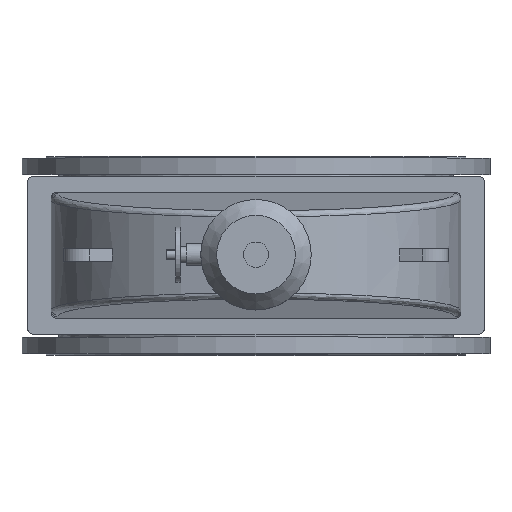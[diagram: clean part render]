
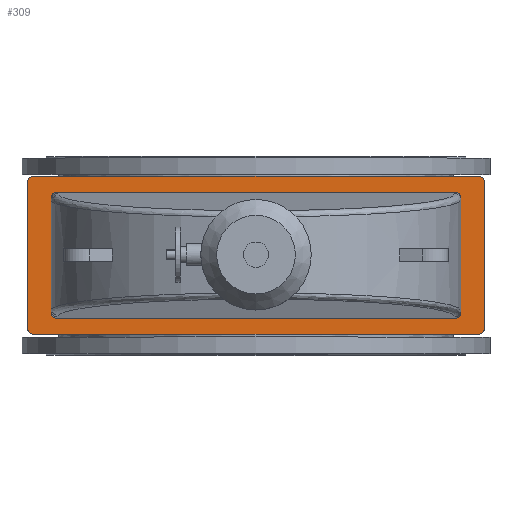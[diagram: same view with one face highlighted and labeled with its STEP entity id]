
A CAD part, top view. The second image highlights one B-rep face of the part: STEP entity #309.
In plain terms, the highlighted planar face has unit normal (0, 0, 1).
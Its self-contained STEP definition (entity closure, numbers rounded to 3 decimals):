
#309=ADVANCED_FACE('',(#4149,#4151),#4153,.T.);
#4149=FACE_BOUND('',#4150,.T.);
#4150=EDGE_LOOP('',(#10154,#10155,#10156,#10157,#10158,#10159,#10160,#10161));
#4151=FACE_BOUND('',#4152,.T.);
#4152=EDGE_LOOP('',(#10162,#10163,#10164,#10165,#10166,#10167,#10168,#10169));
#4153=PLANE('',#4154);
#4154=AXIS2_PLACEMENT_3D('',#4155,#4156,#4157);
#4155=CARTESIAN_POINT('',(0.,0.,1316.));
#4156=DIRECTION('',(0.,-0.,1.));
#4157=DIRECTION('',(0.,1.,0.));
#10154=ORIENTED_EDGE('',*,*,#11758,.F.);
#10155=ORIENTED_EDGE('',*,*,#11759,.T.);
#10156=ORIENTED_EDGE('',*,*,#11760,.F.);
#10157=ORIENTED_EDGE('',*,*,#11761,.T.);
#10158=ORIENTED_EDGE('',*,*,#11762,.F.);
#10159=ORIENTED_EDGE('',*,*,#11763,.T.);
#10160=ORIENTED_EDGE('',*,*,#11764,.F.);
#10161=ORIENTED_EDGE('',*,*,#11765,.T.);
#10162=ORIENTED_EDGE('',*,*,#11756,.F.);
#10163=ORIENTED_EDGE('',*,*,#11755,.F.);
#10164=ORIENTED_EDGE('',*,*,#11757,.F.);
#10165=ORIENTED_EDGE('',*,*,#11730,.F.);
#10166=ORIENTED_EDGE('',*,*,#11766,.F.);
#10167=ORIENTED_EDGE('',*,*,#11767,.F.);
#10168=ORIENTED_EDGE('',*,*,#11768,.F.);
#10169=ORIENTED_EDGE('',*,*,#11723,.F.);
#11723=EDGE_CURVE('',#12571,#12573,#12574,.T.);
#11730=EDGE_CURVE('',#12583,#12581,#12585,.T.);
#11755=EDGE_CURVE('',#12624,#12622,#12626,.T.);
#11756=EDGE_CURVE('',#12622,#12571,#12627,.F.);
#11757=EDGE_CURVE('',#12581,#12624,#12628,.T.);
#11758=EDGE_CURVE('',#12629,#12630,#12631,.F.);
#11759=EDGE_CURVE('',#12629,#12632,#12633,.T.);
#11760=EDGE_CURVE('',#12634,#12632,#12635,.F.);
#11761=EDGE_CURVE('',#12634,#12636,#12637,.T.);
#11762=EDGE_CURVE('',#12638,#12636,#12639,.F.);
#11763=EDGE_CURVE('',#12638,#12640,#12641,.T.);
#11764=EDGE_CURVE('',#12642,#12640,#12643,.F.);
#11765=EDGE_CURVE('',#12642,#12630,#12644,.T.);
#11766=EDGE_CURVE('',#12645,#12583,#12646,.F.);
#11767=EDGE_CURVE('',#12647,#12645,#12648,.T.);
#11768=EDGE_CURVE('',#12573,#12647,#12649,.T.);
#12571=VERTEX_POINT('',#14172);
#12573=VERTEX_POINT('',#14176);
#12574=LINE('',#14177,#14178);
#12581=VERTEX_POINT('',#14197);
#12583=VERTEX_POINT('',#14201);
#12585=LINE('',#14205,#14206);
#12622=VERTEX_POINT('',#14298);
#12624=VERTEX_POINT('',#14302);
#12626=LINE('',#14306,#14307);
#12627=(BOUNDED_CURVE()B_SPLINE_CURVE(3,
(#14309,#14310,#14311,#14312),
.UNSPECIFIED.,.F.,.F.)B_SPLINE_CURVE_WITH_KNOTS((4,4),
(0.,1.),
.UNSPECIFIED.)CURVE()GEOMETRIC_REPRESENTATION_ITEM()RATIONAL_B_SPLINE_CURVE((1.,
0.805,0.805,1.))REPRESENTATION_ITEM(''));
#12628=(BOUNDED_CURVE()B_SPLINE_CURVE(3,
(#14313,#14314,#14315,#14316),
.UNSPECIFIED.,.F.,.F.)B_SPLINE_CURVE_WITH_KNOTS((4,4),
(0.,1.),
.UNSPECIFIED.)CURVE()GEOMETRIC_REPRESENTATION_ITEM()RATIONAL_B_SPLINE_CURVE((1.,
0.805,0.805,1.))REPRESENTATION_ITEM(''));
#12629=VERTEX_POINT('',#14317);
#12630=VERTEX_POINT('',#14318);
#12631=CIRCLE('',#14319,20.);
#12632=VERTEX_POINT('',#14323);
#12633=LINE('',#14324,#14325);
#12634=VERTEX_POINT('',#14327);
#12635=CIRCLE('',#14328,20.);
#12636=VERTEX_POINT('',#14332);
#12637=LINE('',#14333,#14334);
#12638=VERTEX_POINT('',#14336);
#12639=CIRCLE('',#14337,20.);
#12640=VERTEX_POINT('',#14341);
#12641=LINE('',#14342,#14343);
#12642=VERTEX_POINT('',#14345);
#12643=CIRCLE('',#14346,20.);
#12644=LINE('',#14350,#14351);
#12645=VERTEX_POINT('',#14353);
#12646=(BOUNDED_CURVE()B_SPLINE_CURVE(3,
(#14354,#14355,#14356,#14357),
.UNSPECIFIED.,.F.,.F.)B_SPLINE_CURVE_WITH_KNOTS((4,4),
(0.,1.),
.UNSPECIFIED.)CURVE()GEOMETRIC_REPRESENTATION_ITEM()RATIONAL_B_SPLINE_CURVE((1.,
0.805,0.805,1.))REPRESENTATION_ITEM(''));
#12647=VERTEX_POINT('',#14358);
#12648=LINE('',#14359,#14360);
#12649=(BOUNDED_CURVE()B_SPLINE_CURVE(3,
(#14362,#14363,#14364,#14365),
.UNSPECIFIED.,.F.,.F.)B_SPLINE_CURVE_WITH_KNOTS((4,4),
(0.,1.),
.UNSPECIFIED.)CURVE()GEOMETRIC_REPRESENTATION_ITEM()RATIONAL_B_SPLINE_CURVE((1.,
0.805,0.805,1.))REPRESENTATION_ITEM(''));
#14172=CARTESIAN_POINT('',(650.,-179.924,1316.));
#14176=CARTESIAN_POINT('',(650.,179.924,1316.));
#14177=CARTESIAN_POINT('',(650.,-179.924,1316.));
#14178=VECTOR('',#14179,1.);
#14179=DIRECTION('',(0.,1.,0.));
#14197=CARTESIAN_POINT('',(-650.,-179.924,1316.));
#14201=CARTESIAN_POINT('',(-650.,179.924,1316.));
#14205=CARTESIAN_POINT('',(-650.,179.924,1316.));
#14206=VECTOR('',#14207,1.);
#14207=DIRECTION('',(0.,-1.,0.));
#14298=CARTESIAN_POINT('',(630.,-200.,1316.));
#14302=CARTESIAN_POINT('',(-630.,-200.,1316.));
#14306=CARTESIAN_POINT('',(-630.,-200.,1316.));
#14307=VECTOR('',#14308,1.);
#14308=DIRECTION('',(1.,0.,0.));
#14309=CARTESIAN_POINT('',(650.,-179.924,1316.));
#14310=CARTESIAN_POINT('',(650.,-191.684,1316.));
#14311=CARTESIAN_POINT('',(641.716,-200.,1316.));
#14312=CARTESIAN_POINT('',(630.,-200.,1316.));
#14313=CARTESIAN_POINT('',(-650.,-179.924,1316.));
#14314=CARTESIAN_POINT('',(-650.,-191.684,1316.));
#14315=CARTESIAN_POINT('',(-641.716,-200.,1316.));
#14316=CARTESIAN_POINT('',(-630.,-200.,1316.));
#14317=CARTESIAN_POINT('',(-705.,-250.,1316.));
#14318=CARTESIAN_POINT('',(-725.,-230.,1316.));
#14319=AXIS2_PLACEMENT_3D('',#14320,#14321,#14322);
#14320=CARTESIAN_POINT('',(-705.,-230.,1316.));
#14321=DIRECTION('',(0.,-0.,1.));
#14322=DIRECTION('',(-1.,0.,0.));
#14323=CARTESIAN_POINT('',(705.,-250.,1316.));
#14324=CARTESIAN_POINT('',(-705.,-250.,1316.));
#14325=VECTOR('',#14326,1.);
#14326=DIRECTION('',(1.,0.,0.));
#14327=CARTESIAN_POINT('',(725.,-230.,1316.));
#14328=AXIS2_PLACEMENT_3D('',#14329,#14330,#14331);
#14329=CARTESIAN_POINT('',(705.,-230.,1316.));
#14330=DIRECTION('',(0.,-0.,1.));
#14331=DIRECTION('',(0.,-1.,0.));
#14332=CARTESIAN_POINT('',(725.,230.,1316.));
#14333=CARTESIAN_POINT('',(725.,-230.,1316.));
#14334=VECTOR('',#14335,1.);
#14335=DIRECTION('',(0.,1.,0.));
#14336=CARTESIAN_POINT('',(705.,250.,1316.));
#14337=AXIS2_PLACEMENT_3D('',#14338,#14339,#14340);
#14338=CARTESIAN_POINT('',(705.,230.,1316.));
#14339=DIRECTION('',(0.,-0.,1.));
#14340=DIRECTION('',(1.,0.,0.));
#14341=CARTESIAN_POINT('',(-705.,250.,1316.));
#14342=CARTESIAN_POINT('',(705.,250.,1316.));
#14343=VECTOR('',#14344,1.);
#14344=DIRECTION('',(-1.,0.,0.));
#14345=CARTESIAN_POINT('',(-725.,230.,1316.));
#14346=AXIS2_PLACEMENT_3D('',#14347,#14348,#14349);
#14347=CARTESIAN_POINT('',(-705.,230.,1316.));
#14348=DIRECTION('',(0.,-0.,1.));
#14349=DIRECTION('',(0.,1.,0.));
#14350=CARTESIAN_POINT('',(-725.,230.,1316.));
#14351=VECTOR('',#14352,1.);
#14352=DIRECTION('',(0.,-1.,0.));
#14353=CARTESIAN_POINT('',(-630.,200.,1316.));
#14354=CARTESIAN_POINT('',(-650.,179.924,1316.));
#14355=CARTESIAN_POINT('',(-650.,191.684,1316.));
#14356=CARTESIAN_POINT('',(-641.716,200.,1316.));
#14357=CARTESIAN_POINT('',(-630.,200.,1316.));
#14358=CARTESIAN_POINT('',(630.,200.,1316.));
#14359=CARTESIAN_POINT('',(630.,200.,1316.));
#14360=VECTOR('',#14361,1.);
#14361=DIRECTION('',(-1.,0.,0.));
#14362=CARTESIAN_POINT('',(650.,179.924,1316.));
#14363=CARTESIAN_POINT('',(650.,191.684,1316.));
#14364=CARTESIAN_POINT('',(641.716,200.,1316.));
#14365=CARTESIAN_POINT('',(630.,200.,1316.));
